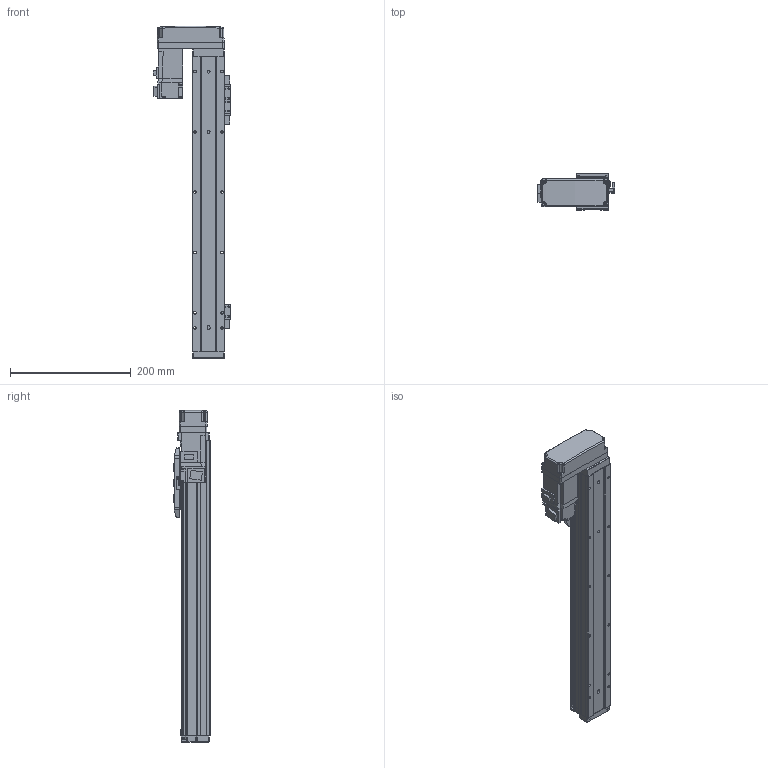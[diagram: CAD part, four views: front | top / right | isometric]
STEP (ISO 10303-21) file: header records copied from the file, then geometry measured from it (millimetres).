
FILE_DESCRIPTION (( 'STEP AP214' ), '1' );
FILE_NAME ('N_GRH5-350-BR-M10.step', '2025-03-14T10:58:00', ( '' ), ( '' ), 'SwSTEP 2.0', 'SolidWorks 2016', '' );
FILE_SCHEMA (( 'AUTOMOTIVE_DESIGN' ));
Length unit declared in the file: millimetre
Products named in the file (5): N_GRH5-GY-004^N_GRH5-350-BR-M10; N_GRH5-BL-008^N_GRH5-350-BR-M10; HF-KP13_100W_Motor^N_GRH5-350-BR-M10; N_GRH5-350-BR-M10; N_GRH5-GY-011^N_GRH5-350-BR-M10
Assembly tree (4 placements, depth 2):
  N_GRH5-350-BR-M10
    N_GRH5-GY-011^N_GRH5-350-BR-M10
    N_GRH5-GY-004^N_GRH5-350-BR-M10
    HF-KP13_100W_Motor^N_GRH5-350-BR-M10
    N_GRH5-BL-008^N_GRH5-350-BR-M10
Bounding box: 128.85 x 60 x 550.5 mm (x, y, z)
Volume: 1178565.1 mm3; surface area: 288029.5 mm2
Topology: 4 solids, 5 shells, 944 faces, 2408 edges, 1525 vertices
Faces by surface type: plane 549, cylinder 320, cone 50, bspline 15, sphere 10
Entity records: 35939 total; most frequent: CARTESIAN_POINT 5643, DIRECTION 4865, ORIENTED_EDGE 4752, EDGE_CURVE 2376, LINE 1643, VECTOR 1643, AXIS2_PLACEMENT_3D 1611, VERTEX_POINT 1523
